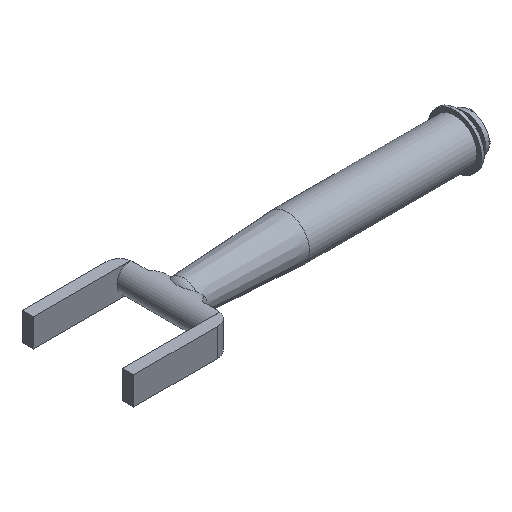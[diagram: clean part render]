
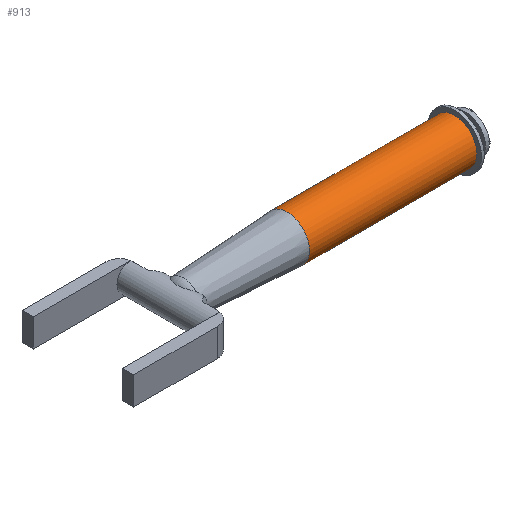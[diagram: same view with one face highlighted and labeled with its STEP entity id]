
A CAD part, isometric view. The second image highlights one B-rep face of the part: STEP entity #913.
In plain terms, the highlighted cylindrical face has radius 8 mm (diameter 16 mm), a full revolution.
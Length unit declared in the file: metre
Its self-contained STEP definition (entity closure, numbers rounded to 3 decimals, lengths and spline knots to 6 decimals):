
#73=CIRCLE('',#1000,0.008);
#74=CIRCLE('',#1002,0.008);
#280=ORIENTED_EDGE('',*,*,#468,.T.);
#281=ORIENTED_EDGE('',*,*,#467,.T.);
#467=EDGE_CURVE('',#576,#576,#73,.T.);
#468=EDGE_CURVE('',#577,#577,#74,.F.);
#576=VERTEX_POINT('',#1595);
#577=VERTEX_POINT('',#1598);
#784=EDGE_LOOP('',(#280));
#785=EDGE_LOOP('',(#281));
#845=FACE_BOUND('',#784,.T.);
#846=FACE_BOUND('',#785,.T.);
#878=CYLINDRICAL_SURFACE('',#1001,0.008);
#913=ADVANCED_FACE('',(#845,#846),#878,.T.);
#1000=AXIS2_PLACEMENT_3D('',#1594,#1194,#1195);
#1001=AXIS2_PLACEMENT_3D('',#1596,#1196,#1197);
#1002=AXIS2_PLACEMENT_3D('',#1597,#1198,#1199);
#1194=DIRECTION('',(-1.,0.,0.));
#1195=DIRECTION('',(0.,0.,1.));
#1196=DIRECTION('',(1.,0.,0.));
#1197=DIRECTION('',(0.,0.,-1.));
#1198=DIRECTION('',(-1.,0.,0.));
#1199=DIRECTION('',(0.,0.,1.));
#1594=CARTESIAN_POINT('',(0.093,0.,0.));
#1595=CARTESIAN_POINT('',(0.093,0.,0.008));
#1596=CARTESIAN_POINT('',(-0.007,0.,0.));
#1597=CARTESIAN_POINT('',(0.033,0.,0.));
#1598=CARTESIAN_POINT('',(0.033,0.,0.008));
